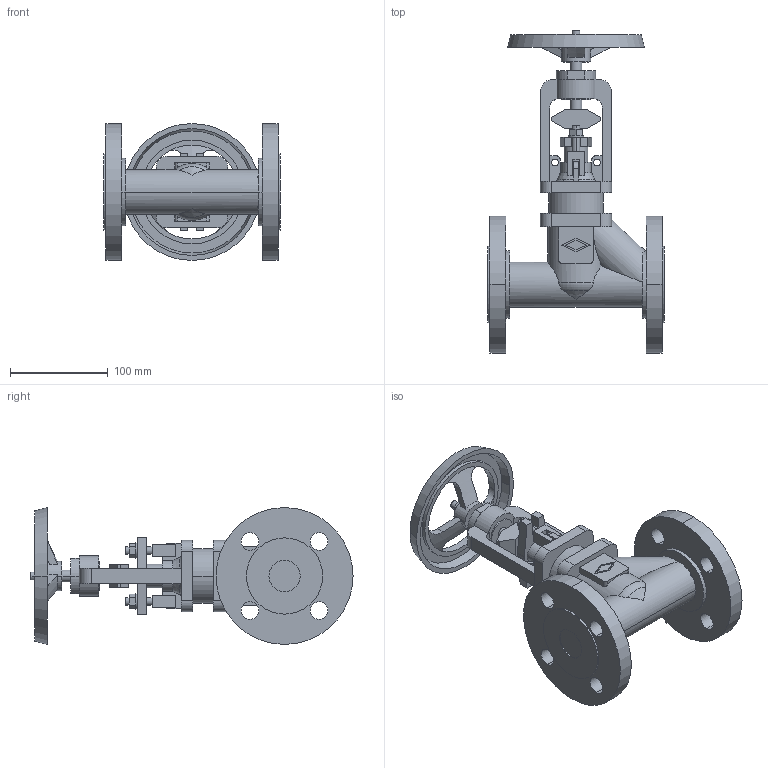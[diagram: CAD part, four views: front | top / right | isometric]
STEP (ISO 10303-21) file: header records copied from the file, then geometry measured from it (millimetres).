
FILE_DESCRIPTION(('OneSpaceDesigner STEP Export'),'2;1');
FILE_NAME('c000004287.stp','2010-05-05T10:29:11',(''),(''),'OneSpace Designer STEP processor for AP214 (Solid Model)','OneSpace Modeling 15.50B 03-Nov-2007 (C) CoCreate Software GmbH','');
FILE_SCHEMA(('AUTOMOTIVE_DESIGN { 1 0 10303 214 1 1 1 1 }'));
Length unit declared in the file: millimetre
Products named in the file (1): 1
Bounding box: 180 x 329.3 x 140 mm (x, y, z)
Volume: 1334957.8 mm3; surface area: 202596.4 mm2
Topology: 1 solids, 1 shells, 298 faces, 788 edges, 519 vertices
Faces by surface type: plane 155, cylinder 117, cone 20, torus 6
Entity records: 11647 total; most frequent: CARTESIAN_POINT 2152, ORIENTED_EDGE 1576, DIRECTION 1345, EDGE_CURVE 788, VERTEX_POINT 519, VECTOR 451, LINE 451, AXIS2_PLACEMENT_3D 447
